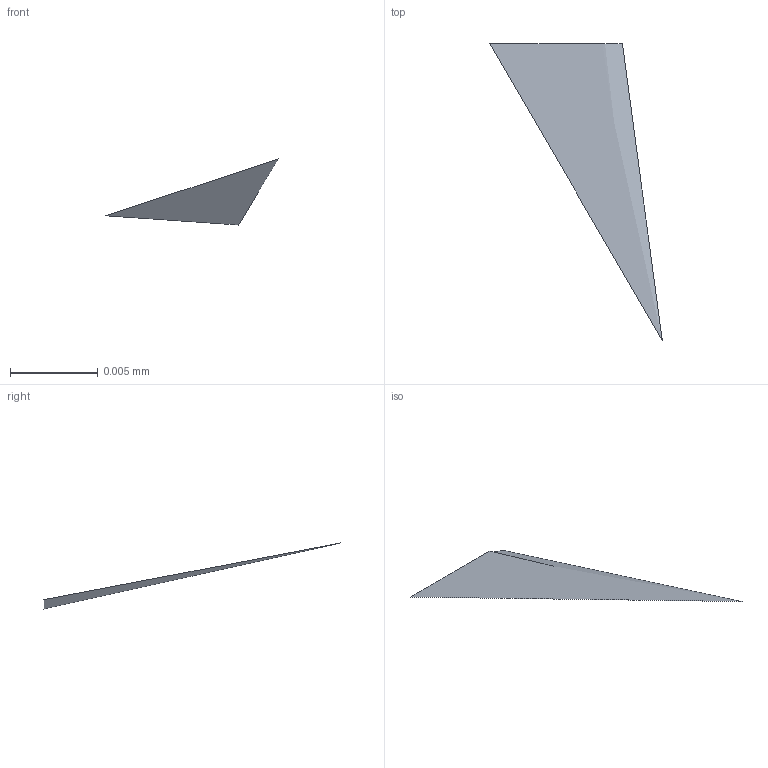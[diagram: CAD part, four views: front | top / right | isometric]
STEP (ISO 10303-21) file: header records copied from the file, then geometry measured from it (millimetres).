
FILE_DESCRIPTION(/* description */ ('STEP AP242 Edition 2','CAx-IF Rec.Pracs.---Representation and Presentation of Product Manufacturing Information (PMI)---4.0---2014-10-13','CAx-IF Rec.Pracs.---3D Tessellated Geometry---0.4---2014-09-14','2;1','CAx-IF Rec.Pracs.---User Defined Attributes---1.5---2016-08-15'),/* implementation_level */ '2;1');
FILE_NAME(/* name */ 'Assembly 1 - Part 8',/* time_stamp */ '2026-03-29T21:14:58Z',/* author */ (''),/* organization */ (''),/* preprocessor_version */ 'ST-DEVELOPER v20',/* originating_system */ 'ONSHAPE BY PTC INC, 1.212',/* authorisation */ ' ');
FILE_SCHEMA (('AP242_MANAGED_MODEL_BASED_3D_ENGINEERING_MIM_LF { 1 0 10303 442 3 1 4 }'));
Length unit declared in the file: metre
Products named in the file (1): Part 8
Bounding box: 0.01 x 0.02 x 0 mm (x, y, z)
Surface area: 0 mm2 (no closed solid volume)
Topology: 0 solids, 1 shells, 1 faces, 0 edges, 0 vertices
Faces by surface type: other 1
Entity records: 31 total; most frequent: DIRECTION 2, SHAPE_REPRESENTATION_RELATIONSHIP 1, TESSELLATED_SHAPE_REPRESENTATION 1, STYLED_ITEM 1, PRESENTATION_STYLE_ASSIGNMENT 1, SURFACE_STYLE_USAGE 1, SURFACE_SIDE_STYLE 1, SURFACE_STYLE_FILL_AREA 1
